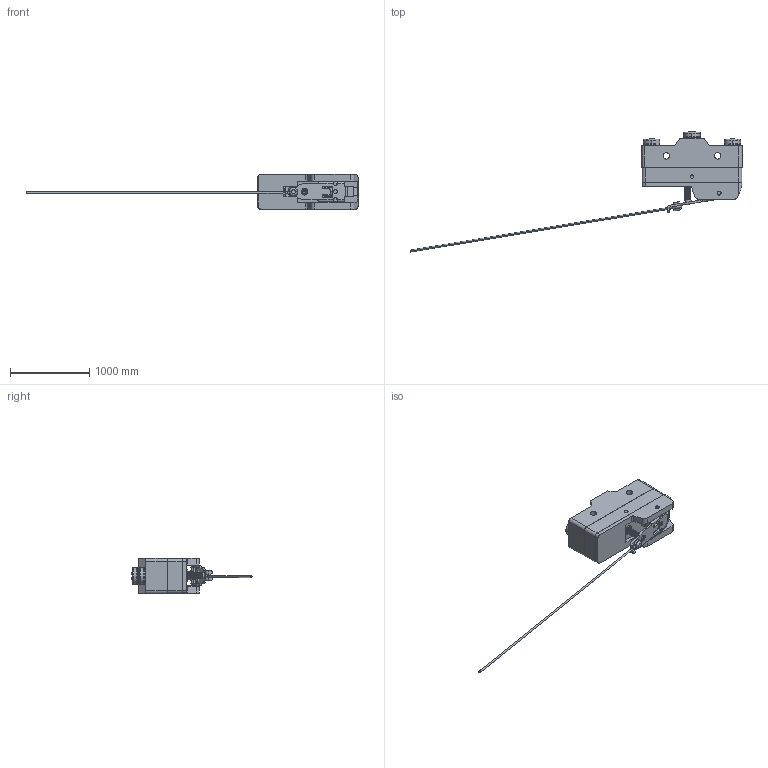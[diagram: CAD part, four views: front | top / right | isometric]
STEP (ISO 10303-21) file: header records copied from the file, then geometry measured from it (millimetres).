
FILE_DESCRIPTION((''),'2;1');
FILE_NAME('ASM0004_ASM','2016-08-17T',('ABS'),(''),'PRO/ENGINEER BY PARAMETRIC TECHNOLOGY CORPORATION, 2012360','PRO/ENGINEER BY PARAMETRIC TECHNOLOGY CORPORATION, 2012360','');
FILE_SCHEMA(('CONFIG_CONTROL_DESIGN'));
Length unit declared in the file: inch
Products named in the file (3): 999; 7; ASM0004_ASM
Assembly tree (2 placements, depth 2):
  ASM0004_ASM
    999
    7
Bounding box: 4180.25 x 1514.05 x 447.04 mm (x, y, z)
Volume: 246820065.3 mm3; surface area: 8511091.7 mm2
Topology: 5 solids, 13 shells, 1026 faces, 2939 edges, 1938 vertices
Faces by surface type: cylinder 543, plane 334, bspline 54, torus 46, cone 28, sphere 21
Entity records: 41491 total; most frequent: CARTESIAN_POINT 14501, ORIENTED_EDGE 5848, DIRECTION 5584, EDGE_CURVE 2924, AXIS2_PLACEMENT_3D 2127, VERTEX_POINT 1938, VECTOR 1330, LINE 1330
